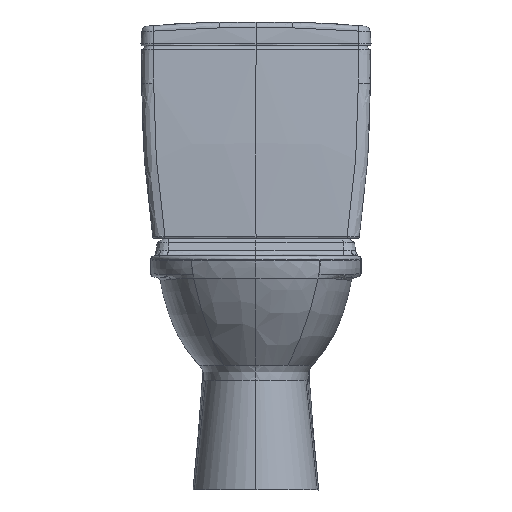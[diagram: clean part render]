
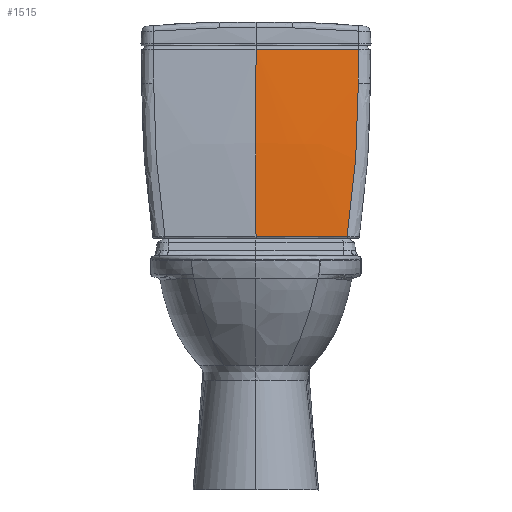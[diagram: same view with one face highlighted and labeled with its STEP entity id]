
A CAD part, front view. The second image highlights one B-rep face of the part: STEP entity #1515.
In plain terms, the highlighted free-form (B-spline) face has degree [3, 3] with [8, 5] control points.
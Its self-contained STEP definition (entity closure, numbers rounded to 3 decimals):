
#90=B_SPLINE_SURFACE_WITH_KNOTS('',3,3,((#10972,#10973,#10974,#10975,#10976),
(#10977,#10978,#10979,#10980,#10981),(#10982,#10983,#10984,#10985,#10986),
(#10987,#10988,#10989,#10990,#10991),(#10992,#10993,#10994,#10995,#10996),
(#10997,#10998,#10999,#11000,#11001),(#11002,#11003,#11004,#11005,#11006),
(#11007,#11008,#11009,#11010,#11011)),.UNSPECIFIED.,.F.,.F.,.F.,(4,1,1,
1,1,4),(4,1,4),(0.,0.352,0.468,0.584,
0.817,1.),(0.,0.521,1.),.UNSPECIFIED.);
#666=B_SPLINE_CURVE_WITH_KNOTS('',3,(#9603,#9604,#9605,#9606,#9607,#9608,
#9609,#9610,#9611,#9612,#9613,#9614,#9615),.UNSPECIFIED.,.F.,.F.,(4,2,2,
1,2,2,4),(0.,0.25,0.375,0.438,0.469,0.5,1.),.UNSPECIFIED.);
#675=B_SPLINE_CURVE_WITH_KNOTS('',3,(#9932,#9933,#9934,#9935,#9936,#9937,
#9938,#9939),.UNSPECIFIED.,.F.,.F.,(4,1,1,1,1,4),(0.,0.315,
0.472,0.629,0.944,1.),.UNSPECIFIED.);
#704=B_SPLINE_CURVE_WITH_KNOTS('',3,(#10842,#10843,#10844,#10845),
 .UNSPECIFIED.,.F.,.F.,(4,4),(0.,1.),.UNSPECIFIED.);
#709=B_SPLINE_CURVE_WITH_KNOTS('',3,(#10947,#10948,#10949,#10950,#10951,
#10952,#10953,#10954),.UNSPECIFIED.,.F.,.F.,(4,2,2,4),(0.,0.353,
0.707,1.),.UNSPECIFIED.);
#710=B_SPLINE_CURVE_WITH_KNOTS('',3,(#10967,#10968,#10969,#10970,#10971),
 .UNSPECIFIED.,.F.,.F.,(4,1,4),(0.,0.505,1.),.UNSPECIFIED.);
#1515=ADVANCED_FACE('',(#2009),#90,.T.);
#2009=FACE_OUTER_BOUND('',#2451,.T.);
#2451=EDGE_LOOP('',(#3316,#3317,#3318,#3319,#3320));
#3316=ORIENTED_EDGE('',*,*,#6047,.F.);
#3317=ORIENTED_EDGE('',*,*,#5979,.T.);
#3318=ORIENTED_EDGE('',*,*,#6054,.T.);
#3319=ORIENTED_EDGE('',*,*,#5998,.F.);
#3320=ORIENTED_EDGE('',*,*,#6055,.T.);
#5242=VERTEX_POINT('',#9244);
#5248=VERTEX_POINT('',#9422);
#5258=VERTEX_POINT('',#9602);
#5263=VERTEX_POINT('',#9940);
#5264=VERTEX_POINT('',#9941);
#5979=EDGE_CURVE('',#5248,#5258,#666,.T.);
#5998=EDGE_CURVE('',#5263,#5264,#675,.T.);
#6047=EDGE_CURVE('',#5248,#5242,#704,.T.);
#6054=EDGE_CURVE('',#5258,#5264,#709,.T.);
#6055=EDGE_CURVE('',#5263,#5242,#710,.T.);
#9244=CARTESIAN_POINT('',(0.278,23.339,33.028));
#9422=CARTESIAN_POINT('',(156.014,28.62,33.028));
#9602=CARTESIAN_POINT('',(175.202,40.752,295.517));
#9603=CARTESIAN_POINT('',(156.014,28.62,33.028));
#9604=CARTESIAN_POINT('',(159.257,29.044,54.924));
#9605=CARTESIAN_POINT('',(162.09,29.619,76.787));
#9606=CARTESIAN_POINT('',(165.726,30.699,109.529));
#9607=CARTESIAN_POINT('',(166.835,31.096,120.434));
#9608=CARTESIAN_POINT('',(168.345,31.744,136.778));
#9609=CARTESIAN_POINT('',(169.062,32.082,144.947));
#9610=CARTESIAN_POINT('',(169.721,32.44,153.11));
#9611=CARTESIAN_POINT('',(170.147,32.683,158.551));
#9612=CARTESIAN_POINT('',(170.351,32.805,161.233));
#9613=CARTESIAN_POINT('',(173.805,34.976,208.115));
#9614=CARTESIAN_POINT('',(175.357,37.596,251.964));
#9615=CARTESIAN_POINT('',(175.203,40.752,295.517));
#9932=CARTESIAN_POINT('',(0.278,38.68,353.336));
#9933=CARTESIAN_POINT('',(18.612,38.68,353.336));
#9934=CARTESIAN_POINT('',(46.112,38.984,353.336));
#9935=CARTESIAN_POINT('',(82.762,40.095,353.336));
#9936=CARTESIAN_POINT('',(119.396,41.667,353.336));
#9937=CARTESIAN_POINT('',(150.128,43.54,353.336));
#9938=CARTESIAN_POINT('',(171.693,45.1,353.336));
#9939=CARTESIAN_POINT('',(174.971,45.342,353.336));
#9940=CARTESIAN_POINT('',(0.278,38.68,353.336));
#9941=CARTESIAN_POINT('',(174.971,45.342,353.336));
#10842=CARTESIAN_POINT('',(156.014,28.62,33.028));
#10843=CARTESIAN_POINT('',(104.183,25.151,33.028));
#10844=CARTESIAN_POINT('',(52.228,23.339,33.028));
#10845=CARTESIAN_POINT('',(0.278,23.339,33.028));
#10947=CARTESIAN_POINT('',(175.201,40.752,295.517));
#10948=CARTESIAN_POINT('',(175.177,41.246,302.33));
#10949=CARTESIAN_POINT('',(175.152,41.756,309.143));
#10950=CARTESIAN_POINT('',(175.099,42.81,322.765));
#10951=CARTESIAN_POINT('',(175.072,43.353,329.575));
#10952=CARTESIAN_POINT('',(175.021,44.378,342.035));
#10953=CARTESIAN_POINT('',(174.997,44.855,347.686));
#10954=CARTESIAN_POINT('',(174.973,45.342,353.336));
#10967=CARTESIAN_POINT('',(0.278,38.68,353.336));
#10968=CARTESIAN_POINT('',(0.278,34.026,299.574));
#10969=CARTESIAN_POINT('',(0.278,26.875,192.875));
#10970=CARTESIAN_POINT('',(0.278,23.835,85.98));
#10971=CARTESIAN_POINT('',(0.278,23.339,33.028));
#10972=CARTESIAN_POINT('',(-27.838,23.352,8.516));
#10973=CARTESIAN_POINT('',(-27.86,23.563,69.641));
#10974=CARTESIAN_POINT('',(-27.902,26.547,186.871));
#10975=CARTESIAN_POINT('',(-27.944,34.473,303.867));
#10976=CARTESIAN_POINT('',(-27.964,39.397,359.765));
#10977=CARTESIAN_POINT('',(-0.215,23.016,8.516));
#10978=CARTESIAN_POINT('',(-0.216,23.233,69.641));
#10979=CARTESIAN_POINT('',(-0.217,26.229,186.872));
#10980=CARTESIAN_POINT('',(-0.217,34.166,303.867));
#10981=CARTESIAN_POINT('',(-0.218,39.096,359.765));
#10982=CARTESIAN_POINT('',(36.542,23.227,8.516));
#10983=CARTESIAN_POINT('',(36.571,23.436,69.641));
#10984=CARTESIAN_POINT('',(36.625,26.416,186.872));
#10985=CARTESIAN_POINT('',(36.68,34.337,303.867));
#10986=CARTESIAN_POINT('',(36.705,39.26,359.765));
#10987=CARTESIAN_POINT('',(82.401,24.592,8.516));
#10988=CARTESIAN_POINT('',(82.465,24.805,69.641));
#10989=CARTESIAN_POINT('',(82.588,27.795,186.872));
#10990=CARTESIAN_POINT('',(82.711,35.73,303.867));
#10991=CARTESIAN_POINT('',(82.769,40.656,359.765));
#10992=CARTESIAN_POINT('',(118.875,26.117,8.516));
#10993=CARTESIAN_POINT('',(118.967,26.338,69.642));
#10994=CARTESIAN_POINT('',(119.145,29.341,186.873));
#10995=CARTESIAN_POINT('',(119.322,37.296,303.867));
#10996=CARTESIAN_POINT('',(119.406,42.229,359.765));
#10997=CARTESIAN_POINT('',(160.543,28.623,8.516));
#10998=CARTESIAN_POINT('',(160.668,28.85,69.642));
#10999=CARTESIAN_POINT('',(160.907,31.866,186.873));
#11000=CARTESIAN_POINT('',(161.146,39.842,303.867));
#11001=CARTESIAN_POINT('',(161.259,44.78,359.765));
#11002=CARTESIAN_POINT('',(193.063,31.153,8.516));
#11003=CARTESIAN_POINT('',(193.213,31.382,69.642));
#11004=CARTESIAN_POINT('',(193.501,34.405,186.874));
#11005=CARTESIAN_POINT('',(193.787,42.395,303.867));
#11006=CARTESIAN_POINT('',(193.924,47.335,359.765));
#11007=CARTESIAN_POINT('',(207.375,32.358,8.516));
#11008=CARTESIAN_POINT('',(207.536,32.588,69.642));
#11009=CARTESIAN_POINT('',(207.846,35.612,186.874));
#11010=CARTESIAN_POINT('',(208.154,43.609,303.867));
#11011=CARTESIAN_POINT('',(208.3,48.55,359.765));
